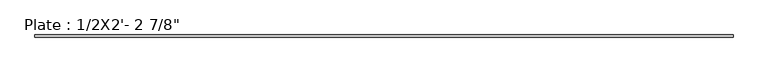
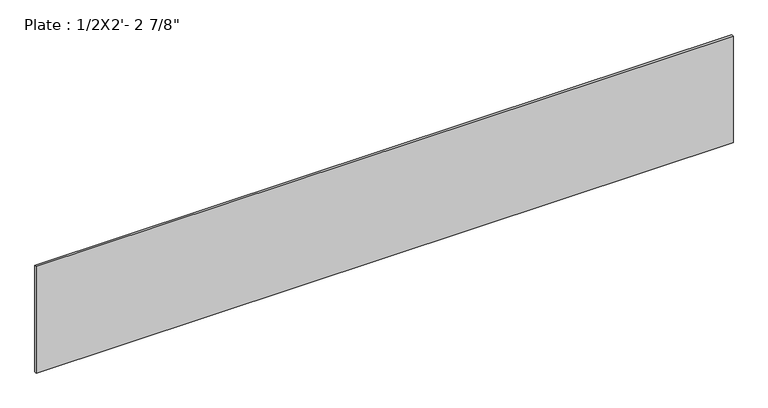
"""IFC4 building model written with IfcOpenShell, lengths in millimetres: beam geometry."""

import ifcopenshell
import ifcopenshell.guid

model = None  # the IFC model being written
_history = None  # IfcOwnerHistory: only IFC2X3 demands one
_inside = {}  # id of a spatial element -> (the spatial element, [elements in it])
_under = {}  # id of a project, library or spatial element -> (it, [spatial elements below it])
_declared = {}  # id of a project -> (the project, [libraries it declares])
_typed = {}  # id of a type object -> (the type object, [elements of that type])
_made_of = {}  # id of a material, layer set ... -> (it, [elements and type objects made of it])


def new_model(schema):
    """Start an empty IFC model of exactly this schema.

    Asked for "IFC4X3", IfcOpenShell would pick the latest addendum, in which some entities
    have other attributes; the version numbers below select the first issue.
    IFC2X3 requires an IfcOwnerHistory on every rooted entity: one is made here for all.
    """
    global model, _history
    if schema == "IFC4X3":
        model = ifcopenshell.file(schema_version=(4, 3, 0, 0))
    else:
        model = ifcopenshell.file(schema=schema)
    _inside.clear()
    _under.clear()
    _declared.clear()
    _typed.clear()
    _made_of.clear()
    _history = None
    if model.schema == "IFC2X3":
        org = make("IfcOrganization", Name="unknown")
        user = make(
            "IfcPersonAndOrganization",
            ThePerson=make("IfcPerson", FamilyName="unknown"),
            TheOrganization=org,
        )
        app = make(
            "IfcApplication",
            ApplicationDeveloper=org,
            Version="unknown",
            ApplicationFullName="unknown",
            ApplicationIdentifier="unknown",
        )
        _history = make(
            "IfcOwnerHistory",
            OwningUser=user,
            OwningApplication=app,
            ChangeAction="ADDED",
            CreationDate=0,
        )
    return model


def make(cls, **values):
    """One entity of the class cls with the attributes given. An attribute that is None is left unset."""
    return model.create_entity(
        cls, **{name: value for name, value in values.items() if value is not None}
    )


def rooted(cls, **values):
    """An entity with a GlobalId (a new one), such as an element, a storey or a relation."""
    return make(cls, GlobalId=ifcopenshell.guid.new(), OwnerHistory=_history, **values)


def si_unit(unit_type, name, prefix=None):
    """IfcSIUnit, for example si_unit("LENGTHUNIT", "METRE", prefix="MILLI")."""
    return make("IfcSIUnit", UnitType=unit_type, Prefix=prefix, Name=name)


def assignment(units):
    """IfcUnitAssignment: the units of a project."""
    return None if units is None else make("IfcUnitAssignment", Units=units)


def point(xyz):
    """IfcCartesianPoint."""
    return None if xyz is None else make("IfcCartesianPoint", Coordinates=xyz)


def direction(xyz):
    """IfcDirection."""
    return None if xyz is None else make("IfcDirection", DirectionRatios=xyz)


def frame(location, z_axis=None, x_axis=None):
    """IfcAxis2Placement3D, a coordinate frame: its origin and axes. An axis left out is left unset."""
    return make(
        "IfcAxis2Placement3D",
        Location=point(location),
        Axis=direction(z_axis),
        RefDirection=direction(x_axis),
    )


def origin():
    """The frame at (0, 0, 0) with its axes left unset."""
    return frame((0.0, 0.0, 0.0))


def place(relative_to, where):
    """IfcLocalPlacement: puts the frame where relative to a parent placement (None: the world)."""
    return make(
        "IfcLocalPlacement", PlacementRelTo=relative_to, RelativePlacement=where
    )


def context(
    kind, dimensions, precision=None, world=None, true_north=None, identifier=None
):
    """IfcGeometricRepresentationContext, for example the 3D "Model" context."""
    return make(
        "IfcGeometricRepresentationContext",
        ContextIdentifier=identifier,
        ContextType=kind,
        CoordinateSpaceDimension=dimensions,
        Precision=precision,
        WorldCoordinateSystem=world,
        TrueNorth=true_north,
    )


def project(units=None, contexts=None):
    """IfcProject with its units and contexts."""
    return rooted(
        "IfcProject",
        Name="project",
        RepresentationContexts=contexts,
        UnitsInContext=assignment(units),
    )


def spatial(cls, under=None, at=None, **own):
    """A site, building, storey or space (cls), placed at a placement, below another one or the project."""
    s = rooted(cls, ObjectPlacement=at, **own)
    if under is not None:
        _under.setdefault(under.id(), (under, []))[1].append(s)
    return s


def polyline(points):
    """IfcPolyline through the points."""
    return make("IfcPolyline", Points=[point(p) for p in points])


def outline(outer, holes=None, kind="AREA"):
    """IfcArbitraryClosedProfileDef: a profile drawn as a closed curve; with holes, ...WithVoids."""
    if holes is None:
        return make("IfcArbitraryClosedProfileDef", ProfileType=kind, OuterCurve=outer)
    return make(
        "IfcArbitraryProfileDefWithVoids",
        ProfileType=kind,
        OuterCurve=outer,
        InnerCurves=holes,
    )


def extrude(swept, where, along, depth):
    """IfcExtrudedAreaSolid: the profile swept, set in the frame where, extruded along a direction by depth."""
    return make(
        "IfcExtrudedAreaSolid",
        SweptArea=swept,
        Position=where,
        ExtrudedDirection=direction(along),
        Depth=depth,
    )


def shape(context_of_items, identifier, shape_type, items):
    """IfcShapeRepresentation: the items that make up one representation, for example the "Body"."""
    return make(
        "IfcShapeRepresentation",
        ContextOfItems=context_of_items,
        RepresentationIdentifier=identifier,
        RepresentationType=shape_type,
        Items=items,
    )


def source(mapping_origin, context_of_items, identifier, shape_type, items):
    """IfcRepresentationMap: a shape defined once, which mapped items show again and again."""
    return make(
        "IfcRepresentationMap",
        MappingOrigin=mapping_origin,
        MappedRepresentation=shape(context_of_items, identifier, shape_type, items),
    )


def transform(
    local_origin,
    x_axis=None,
    y_axis=None,
    z_axis=None,
    scale=None,
    scale2=None,
    scale3=None,
    uniform=True,
):
    """IfcCartesianTransformationOperator3D, or its non-uniform kind. x_axis, y_axis, z_axis: its Axis1, 2, 3."""
    if uniform:
        return make(
            "IfcCartesianTransformationOperator3D",
            Axis1=direction(x_axis),
            Axis2=direction(y_axis),
            LocalOrigin=point(local_origin),
            Scale=scale,
            Axis3=direction(z_axis),
        )
    return make(
        "IfcCartesianTransformationOperator3DnonUniform",
        Axis1=direction(x_axis),
        Axis2=direction(y_axis),
        LocalOrigin=point(local_origin),
        Scale=scale,
        Axis3=direction(z_axis),
        Scale2=scale2,
        Scale3=scale3,
    )


def mapped(mapping_source, mapping_target):
    """IfcMappedItem: shows the shape of a source again, moved by a transform."""
    return make(
        "IfcMappedItem", MappingSource=mapping_source, MappingTarget=mapping_target
    )


def made_of(thing, what):
    """Note that an element or type object is made of a material, layer set ...; save() writes the relation."""
    if what is not None:
        _made_of.setdefault(what.id(), (what, []))[1].append(thing)
    return thing


def element(
    cls,
    number,
    at=None,
    inside=None,
    cuts=None,
    type_object=None,
    material=None,
    context=None,
    identifier="Body",
    shape_type=None,
    held_by="IfcProductDefinitionShape",
    body=None,
    shapes=None,
    **own,
):
    """One element of the class cls, such as IfcWall. Its Tag is "e" and its number.

    at: its placement. inside: the storey or other place that contains it. cuts: it is an
    opening in that element (IfcRelVoidsElement). A single representation is given by context,
    identifier, shape_type and body (its items); several are given by shapes. held_by: the class
    of the entity that holds the representations. save() writes the other relations.
    """
    e = rooted(cls, Tag="e%d" % number, ObjectPlacement=at, **own)
    if body is not None:
        shapes = [shape(context, identifier, shape_type, body)]
    if shapes is not None:
        e.Representation = make(held_by, Representations=shapes)
    if inside is not None:
        _inside.setdefault(inside.id(), (inside, []))[1].append(e)
    if cuts is not None:
        rooted(
            "IfcRelVoidsElement", RelatingBuildingElement=cuts, RelatedOpeningElement=e
        )
    if type_object is not None:
        _typed.setdefault(type_object.id(), (type_object, []))[1].append(e)
    return made_of(e, material)


def aggregate(whole, parts):
    """IfcRelAggregates: a whole, such as a stair, and the parts it consists of."""
    return rooted("IfcRelAggregates", RelatingObject=whole, RelatedObjects=parts)


def save(model, path):
    """Write the relations noted so far, then the file.

    IfcRelAggregates (storeys below a building ...), IfcRelContainedInSpatialStructure (elements
    in a storey), IfcRelDefinesByType, IfcRelAssociatesMaterial and IfcRelDeclares: one each for
    every whole, place, type object, material and project.
    """
    for whole, parts in _under.values():
        aggregate(whole, parts)
    for where, things in _inside.values():
        rooted(
            "IfcRelContainedInSpatialStructure",
            RelatedElements=things,
            RelatingStructure=where,
        )
    for kind, things in _typed.values():
        rooted("IfcRelDefinesByType", RelatedObjects=things, RelatingType=kind)
    for what, things in _made_of.values():
        rooted("IfcRelAssociatesMaterial", RelatedObjects=things, RelatingMaterial=what)
    for by, libraries in _declared.values():
        rooted("IfcRelDeclares", RelatingContext=by, RelatedDefinitions=libraries)
    model.write(path)


def beam_f273ec72(model_context):
    return source(origin(), model_context, "Body", "SweptSolid", [
        extrude(outline(polyline([(2109.787774, 6.35), (2109.787774, -6.35), (-2109.787226, -6.35), (-2109.787226, 6.35), (2109.787774, 6.35)])), frame((0.0, 0.0, -341.3125), z_axis=(0.0, 0.0, 1.0), x_axis=(1.0, 0.0, 0.0)), (0.0, 0.0, 1.0), 682.625),
    ])


if __name__ == "__main__":
    model = new_model("IFC4")
    model_context = context("Model", 3, world=origin())
    ifc_project = project(units=[si_unit("LENGTHUNIT", "METRE", prefix="MILLI")], contexts=[model_context])
    site = spatial("IfcSite", under=ifc_project)
    building = spatial("IfcBuilding", under=site)
    placement = place(None, origin())
    beam_shape = beam_f273ec72(model_context)
    element("IfcBeam", 1, ObjectType="Plate : 1/2X2'- 2 7/8\"", at=placement, inside=building, context=model_context, shape_type="MappedRepresentation", body=[
        mapped(beam_shape, transform((0.0, 0.0, 0.0), x_axis=(1.0, 0.0, 0.0), y_axis=(0.0, 1.0, 0.0), z_axis=(0.0, 0.0, 1.0))),
    ])
    save(model, "model.ifc")
